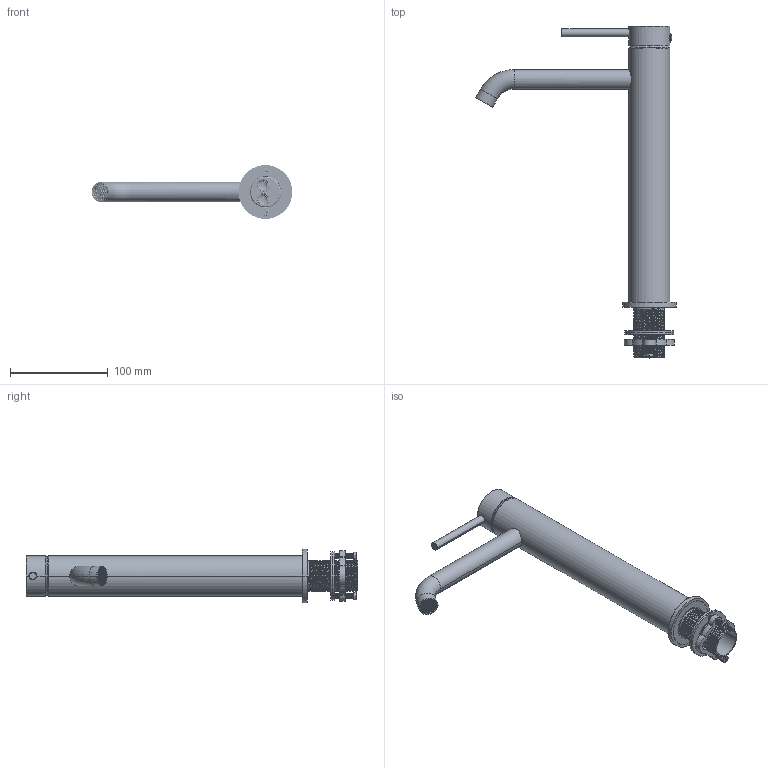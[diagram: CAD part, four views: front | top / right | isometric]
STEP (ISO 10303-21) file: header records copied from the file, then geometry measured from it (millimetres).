
FILE_DESCRIPTION((''),'2;1');
FILE_NAME('OM-88239017_ASM','2024-06-20T09:04:35',('GL-JISHU1'),(''),'CREO PARAMETRIC BY PTC INC, 2021063','CREO PARAMETRIC BY PTC INC, 2021063','');
FILE_SCHEMA(('AUTOMOTIVE_DESIGN { 1 0 10303 214 1 1 1 1 }'));
Length unit declared in the file: millimetre
Products named in the file (40): 4TG-001018-AJJ_AF0; 4FZ-001042-AJJ_AF0; 4ZT-191013-AJJ1_ASM; 4WG-191013-GJJ_AF0; 4JT-101002-AJJ_AF0; 4SZ-191013-GJJ_ASM; 5ZT-191013-ACR_ASM; _X2_96F64EF651E04F554F53_X0_; _X2_51E04F554F53_X0__2; _X2_51E04F554F53_X0__3; _X2_51E04F554F53_X0__4; _X2_51E04F554F53_X0__5; _X2_51E04F554F53_X0__6_1; _X2_51E04F554F53_X0__6_2; 3FX-001078-MAA_ASM; 3YG-001009-AJJ; 4JT-001206-AJJ; 4TG-001021-AJJ; 4JT-001205-AJJ; 3JQ-001022-NAA_AF0; 3JQ-001022-NAA_AF1; 4TG-001019-AHX_ASM; 3WD-001058-MAA; 5DZ-001049-ACR; 5BS-181013-1-ACR; 5BS-181013-2-ACR; 3LS-001077-JAA; 3LS-001064-JAA; 3SN-001001-MCR; 181013000_ASM; 3JQ-001544-NAA; 3ZG-010027-MCR; 3JQ-001195-NAA_AF0; 3JQ-001491-NAA; 3PD-001001-KAA; 3LM-001001-AJJ; 3LS-001287-JAA; 3LG-001001-KAA; M32-600001_ASM; OM-88239017_ASM
Assembly tree (41 placements, depth 4):
  OM-88239017_ASM
    5ZT-191013-ACR_ASM
      4ZT-191013-AJJ1_ASM
        4TG-001018-AJJ_AF0
        4FZ-001042-AJJ_AF0
      4SZ-191013-GJJ_ASM
        4WG-191013-GJJ_AF0
        4JT-101002-AJJ_AF0
    3FX-001078-MAA_ASM
      _X2_96F64EF651E04F554F53_X0_
      _X2_51E04F554F53_X0__2
      _X2_51E04F554F53_X0__3
      _X2_51E04F554F53_X0__4
      _X2_51E04F554F53_X0__5
      _X2_51E04F554F53_X0__6_1
      _X2_51E04F554F53_X0__6_2
    3YG-001009-AJJ
    4TG-001019-AHX_ASM  x2
      4JT-001206-AJJ
      4TG-001021-AJJ
      4JT-001205-AJJ
      3JQ-001022-NAA_AF0
      3JQ-001022-NAA_AF1
    3WD-001058-MAA
    5DZ-001049-ACR
    181013000_ASM
      5BS-181013-1-ACR
      5BS-181013-2-ACR
      3LS-001077-JAA
      3LS-001064-JAA
      3SN-001001-MCR
    3JQ-001544-NAA
    3ZG-010027-MCR
    3JQ-001195-NAA_AF0
    M32-600001_ASM
      3JQ-001491-NAA
      3PD-001001-KAA
      3LM-001001-AJJ
      3LS-001287-JAA  x2
      3LG-001001-KAA
Bounding box: 205.14 x 339.5 x 55 mm (x, y, z)
Volume: 163132.5 mm3; surface area: 194334.7 mm2
Topology: 39 solids, 41 shells, 7649 faces, 21500 edges, 14104 vertices
Faces by surface type: plane 6180, cylinder 876, torus 254, cone 184, bspline 125, sphere 30
Entity records: 386378 total; most frequent: CARTESIAN_POINT 104578, ORIENTED_EDGE 41998, DIRECTION 28107, PRESENTATION_STYLE_ASSIGNMENT 25711, EDGE_CURVE 20999, STYLED_ITEM 20754, CURVE_STYLE 19885, VERTEX_POINT 13814
